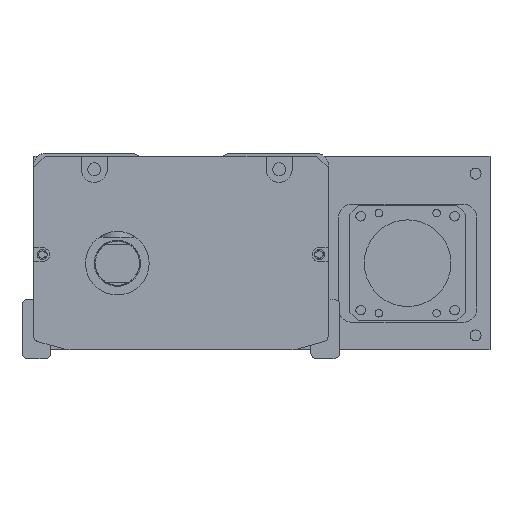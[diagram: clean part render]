
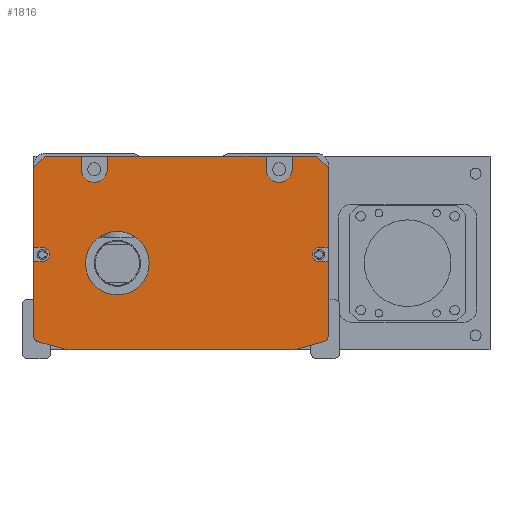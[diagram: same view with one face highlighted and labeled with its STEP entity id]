
A CAD part, front view. The second image highlights one B-rep face of the part: STEP entity #1816.
In plain terms, the highlighted planar face has unit normal (0, -1, 0).
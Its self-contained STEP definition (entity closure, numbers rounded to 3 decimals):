
#1816=ADVANCED_FACE('',(#4344,#4345),#2345,.F.);
#2345=PLANE('',#13677);
#2874=LINE('',#26432,#3667);
#2878=LINE('',#26441,#3671);
#2886=LINE('',#26468,#3679);
#2890=LINE('',#26477,#3683);
#2897=LINE('',#26493,#3690);
#2899=LINE('',#26498,#3692);
#2914=LINE('',#26541,#3707);
#2916=LINE('',#26549,#3709);
#2919=LINE('',#26553,#3712);
#2940=LINE('',#26621,#3733);
#2944=LINE('',#26630,#3737);
#2948=LINE('',#26639,#3741);
#2952=LINE('',#26648,#3745);
#2956=LINE('',#26664,#3749);
#2960=LINE('',#26670,#3753);
#2961=LINE('',#26671,#3754);
#2963=LINE('',#26687,#3756);
#2964=LINE('',#26688,#3757);
#2965=LINE('',#26689,#3758);
#2966=LINE('',#26690,#3759);
#3667=VECTOR('',#16139,1.);
#3671=VECTOR('',#16145,1.);
#3679=VECTOR('',#16167,1.);
#3683=VECTOR('',#16173,1.);
#3690=VECTOR('',#16182,1.);
#3692=VECTOR('',#16186,1.);
#3707=VECTOR('',#16225,1.);
#3709=VECTOR('',#16235,1.);
#3712=VECTOR('',#16240,1.);
#3733=VECTOR('',#16315,1.);
#3737=VECTOR('',#16321,1.);
#3741=VECTOR('',#16327,1.);
#3745=VECTOR('',#16333,1.);
#3749=VECTOR('',#16351,1.);
#3753=VECTOR('',#16355,1.);
#3754=VECTOR('',#16356,1.);
#3756=VECTOR('',#16380,1.);
#3757=VECTOR('',#16381,1.);
#3758=VECTOR('',#16382,1.);
#3759=VECTOR('',#16383,1.);
#4344=FACE_BOUND('',#5190,.T.);
#4345=FACE_BOUND('',#5191,.T.);
#5190=EDGE_LOOP('',(#7619,#7620,#7621,#7622,#7623,#7624,#7625,#7626,#7627,
#7628,#7629,#7630,#7631,#7632,#7633,#7634,#7635,#7636,#7637,#7638,#7639,
#7640,#7641,#7642,#7643,#7644,#7645,#7646));
#5191=EDGE_LOOP('',(#7647));
#7619=ORIENTED_EDGE('',*,*,#11532,.T.);
#7620=ORIENTED_EDGE('',*,*,#11409,.T.);
#7621=ORIENTED_EDGE('',*,*,#11519,.T.);
#7622=ORIENTED_EDGE('',*,*,#11436,.F.);
#7623=ORIENTED_EDGE('',*,*,#11473,.T.);
#7624=ORIENTED_EDGE('',*,*,#11438,.F.);
#7625=ORIENTED_EDGE('',*,*,#11524,.T.);
#7626=ORIENTED_EDGE('',*,*,#11425,.F.);
#7627=ORIENTED_EDGE('',*,*,#11470,.T.);
#7628=ORIENTED_EDGE('',*,*,#11429,.F.);
#7629=ORIENTED_EDGE('',*,*,#11523,.T.);
#7630=ORIENTED_EDGE('',*,*,#11413,.T.);
#7631=ORIENTED_EDGE('',*,*,#11533,.T.);
#7632=ORIENTED_EDGE('',*,*,#11503,.T.);
#7633=ORIENTED_EDGE('',*,*,#11531,.T.);
#7634=ORIENTED_EDGE('',*,*,#11499,.T.);
#7635=ORIENTED_EDGE('',*,*,#11534,.T.);
#7636=ORIENTED_EDGE('',*,*,#11456,.T.);
#7637=ORIENTED_EDGE('',*,*,#11459,.T.);
#7638=ORIENTED_EDGE('',*,*,#11462,.T.);
#7639=ORIENTED_EDGE('',*,*,#11463,.T.);
#7640=ORIENTED_EDGE('',*,*,#11419,.T.);
#7641=ORIENTED_EDGE('',*,*,#11466,.T.);
#7642=ORIENTED_EDGE('',*,*,#11421,.T.);
#7643=ORIENTED_EDGE('',*,*,#11535,.T.);
#7644=ORIENTED_EDGE('',*,*,#11511,.T.);
#7645=ORIENTED_EDGE('',*,*,#11530,.T.);
#7646=ORIENTED_EDGE('',*,*,#11507,.T.);
#7647=ORIENTED_EDGE('',*,*,#11475,.T.);
#9893=VERTEX_POINT('',#26433);
#9894=VERTEX_POINT('',#26434);
#9897=VERTEX_POINT('',#26442);
#9898=VERTEX_POINT('',#26443);
#9903=VERTEX_POINT('',#26454);
#9904=VERTEX_POINT('',#26456);
#9905=VERTEX_POINT('',#26460);
#9906=VERTEX_POINT('',#26461);
#9909=VERTEX_POINT('',#26469);
#9910=VERTEX_POINT('',#26470);
#9913=VERTEX_POINT('',#26478);
#9914=VERTEX_POINT('',#26479);
#9918=VERTEX_POINT('',#26488);
#9920=VERTEX_POINT('',#26492);
#9921=VERTEX_POINT('',#26496);
#9923=VERTEX_POINT('',#26499);
#9933=VERTEX_POINT('',#26529);
#9936=VERTEX_POINT('',#26534);
#9938=VERTEX_POINT('',#26540);
#9940=VERTEX_POINT('',#26546);
#9943=VERTEX_POINT('',#26572);
#9959=VERTEX_POINT('',#26619);
#9961=VERTEX_POINT('',#26622);
#9964=VERTEX_POINT('',#26629);
#9965=VERTEX_POINT('',#26631);
#9967=VERTEX_POINT('',#26637);
#9969=VERTEX_POINT('',#26640);
#9972=VERTEX_POINT('',#26647);
#9973=VERTEX_POINT('',#26649);
#11409=EDGE_CURVE('',#9893,#9894,#2874,.T.);
#11413=EDGE_CURVE('',#9897,#9898,#2878,.T.);
#11419=EDGE_CURVE('',#9904,#9903,#12564,.T.);
#11421=EDGE_CURVE('',#9905,#9906,#12565,.T.);
#11425=EDGE_CURVE('',#9909,#9910,#2886,.T.);
#11429=EDGE_CURVE('',#9913,#9914,#2890,.T.);
#11436=EDGE_CURVE('',#9920,#9918,#2897,.T.);
#11438=EDGE_CURVE('',#9921,#9923,#2899,.T.);
#11456=EDGE_CURVE('',#9933,#9936,#12572,.T.);
#11459=EDGE_CURVE('',#9936,#9938,#2914,.T.);
#11462=EDGE_CURVE('',#9938,#9940,#12574,.T.);
#11463=EDGE_CURVE('',#9940,#9904,#2916,.T.);
#11466=EDGE_CURVE('',#9903,#9905,#2919,.T.);
#11470=EDGE_CURVE('',#9909,#9914,#12577,.T.);
#11473=EDGE_CURVE('',#9920,#9923,#12580,.T.);
#11475=EDGE_CURVE('',#9943,#9943,#12581,.T.);
#11499=EDGE_CURVE('',#9961,#9959,#2940,.T.);
#11503=EDGE_CURVE('',#9965,#9964,#2944,.T.);
#11507=EDGE_CURVE('',#9969,#9967,#2948,.T.);
#11511=EDGE_CURVE('',#9973,#9972,#2952,.T.);
#11519=EDGE_CURVE('',#9894,#9918,#2956,.T.);
#11523=EDGE_CURVE('',#9913,#9897,#2960,.T.);
#11524=EDGE_CURVE('',#9921,#9910,#2961,.T.);
#11530=EDGE_CURVE('',#9972,#9969,#12595,.T.);
#11531=EDGE_CURVE('',#9964,#9961,#12596,.T.);
#11532=EDGE_CURVE('',#9967,#9893,#2963,.T.);
#11533=EDGE_CURVE('',#9898,#9965,#2964,.T.);
#11534=EDGE_CURVE('',#9959,#9933,#2965,.T.);
#11535=EDGE_CURVE('',#9906,#9973,#2966,.T.);
#12564=CIRCLE('',#13604,10.);
#12565=CIRCLE('',#13606,2.);
#12572=CIRCLE('',#13622,2.);
#12574=CIRCLE('',#13626,10.);
#12577=CIRCLE('',#13634,4.5);
#12580=CIRCLE('',#13639,4.5);
#12581=CIRCLE('',#13642,11.);
#12595=CIRCLE('',#13673,2.5);
#12596=CIRCLE('',#13675,2.5);
#13604=AXIS2_PLACEMENT_3D('',#26455,#16154,#16155);
#13606=AXIS2_PLACEMENT_3D('',#26459,#16159,#16160);
#13622=AXIS2_PLACEMENT_3D('',#26535,#16219,#16220);
#13626=AXIS2_PLACEMENT_3D('',#26547,#16231,#16232);
#13634=AXIS2_PLACEMENT_3D('',#26561,#16252,#16253);
#13639=AXIS2_PLACEMENT_3D('',#26567,#16262,#16263);
#13642=AXIS2_PLACEMENT_3D('',#26571,#16269,#16270);
#13673=AXIS2_PLACEMENT_3D('',#26683,#16372,#16373);
#13675=AXIS2_PLACEMENT_3D('',#26685,#16376,#16377);
#13677=AXIS2_PLACEMENT_3D('',#26691,#16384,#16385);
#16139=DIRECTION('',(-0.707,0.,0.707));
#16145=DIRECTION('',(-0.707,0.,-0.707));
#16154=DIRECTION('',(0.,-1.,0.));
#16155=DIRECTION('',(0.,0.,-1.));
#16159=DIRECTION('',(0.,-1.,0.));
#16160=DIRECTION('',(0.,0.,-1.));
#16167=DIRECTION('',(0.,0.,1.));
#16173=DIRECTION('',(0.,0.,-1.));
#16182=DIRECTION('',(0.,0.,1.));
#16186=DIRECTION('',(0.,0.,-1.));
#16219=DIRECTION('',(0.,-1.,0.));
#16220=DIRECTION('',(0.,0.,1.));
#16225=DIRECTION('',(0.963,0.,-0.269));
#16231=DIRECTION('',(0.,-1.,0.));
#16232=DIRECTION('',(0.,0.,1.));
#16235=DIRECTION('',(1.,0.,0.));
#16240=DIRECTION('',(0.963,0.,0.269));
#16252=DIRECTION('',(0.,1.,0.));
#16253=DIRECTION('',(0.,0.,1.));
#16262=DIRECTION('',(0.,1.,0.));
#16263=DIRECTION('',(0.,0.,1.));
#16269=DIRECTION('',(0.,1.,0.));
#16270=DIRECTION('',(0.,0.,1.));
#16315=DIRECTION('',(-1.,0.,0.));
#16321=DIRECTION('',(1.,0.,0.));
#16327=DIRECTION('',(1.,0.,0.));
#16333=DIRECTION('',(-1.,0.,0.));
#16351=DIRECTION('',(-1.,0.,0.));
#16355=DIRECTION('',(-1.,0.,0.));
#16356=DIRECTION('',(-1.,0.,0.));
#16372=DIRECTION('',(0.,1.,0.));
#16373=DIRECTION('',(0.,0.,1.));
#16376=DIRECTION('',(0.,1.,0.));
#16377=DIRECTION('',(0.,0.,1.));
#16380=DIRECTION('',(0.,0.,1.));
#16381=DIRECTION('',(0.,0.,-1.));
#16382=DIRECTION('',(0.,0.,-1.));
#16383=DIRECTION('',(0.,0.,1.));
#16384=DIRECTION('',(0.,1.,0.));
#16385=DIRECTION('',(-1.,0.,0.));
#26432=CARTESIAN_POINT('',(43.808,-67.5,-1.));
#26433=CARTESIAN_POINT('',(47.808,-67.5,-5.));
#26434=CARTESIAN_POINT('',(43.808,-67.5,-1.));
#26441=CARTESIAN_POINT('',(-54.192,-67.5,-5.));
#26442=CARTESIAN_POINT('',(-50.192,-67.5,-1.));
#26443=CARTESIAN_POINT('',(-54.192,-67.5,-5.));
#26454=CARTESIAN_POINT('',(37.424,-67.5,-67.631));
#26455=CARTESIAN_POINT('',(34.733,-67.5,-58.));
#26456=CARTESIAN_POINT('',(34.733,-67.5,-68.));
#26459=CARTESIAN_POINT('',(45.808,-67.5,-63.212));
#26460=CARTESIAN_POINT('',(46.346,-67.5,-65.138));
#26461=CARTESIAN_POINT('',(47.808,-67.5,-63.212));
#26468=CARTESIAN_POINT('',(-28.692,-67.5,-3.5));
#26469=CARTESIAN_POINT('',(-28.692,-67.5,-5.5));
#26470=CARTESIAN_POINT('',(-28.692,-67.5,-1.));
#26477=CARTESIAN_POINT('',(-37.692,-67.5,-1.));
#26478=CARTESIAN_POINT('',(-37.692,-67.5,-1.));
#26479=CARTESIAN_POINT('',(-37.692,-67.5,-5.5));
#26488=CARTESIAN_POINT('',(35.308,-67.5,-1.));
#26492=CARTESIAN_POINT('',(35.308,-67.5,-5.5));
#26493=CARTESIAN_POINT('',(35.308,-67.5,-1.));
#26496=CARTESIAN_POINT('',(26.308,-67.5,-1.));
#26498=CARTESIAN_POINT('',(26.308,-67.5,-1.));
#26499=CARTESIAN_POINT('',(26.308,-67.5,-5.5));
#26529=CARTESIAN_POINT('',(-54.192,-67.5,-63.212));
#26534=CARTESIAN_POINT('',(-52.731,-67.5,-65.138));
#26535=CARTESIAN_POINT('',(-52.192,-67.5,-63.212));
#26540=CARTESIAN_POINT('',(-43.809,-67.5,-67.631));
#26541=CARTESIAN_POINT('',(-55.807,-67.5,-64.279));
#26546=CARTESIAN_POINT('',(-41.118,-67.5,-68.));
#26547=CARTESIAN_POINT('',(-41.118,-67.5,-58.));
#26549=CARTESIAN_POINT('',(-54.692,-67.5,-68.));
#26553=CARTESIAN_POINT('',(49.422,-67.5,-64.279));
#26561=CARTESIAN_POINT('',(-33.192,-67.5,-5.5));
#26567=CARTESIAN_POINT('',(30.808,-67.5,-5.5));
#26571=CARTESIAN_POINT('',(-25.192,-67.5,-38.));
#26572=CARTESIAN_POINT('',(-25.192,-67.5,-27.));
#26619=CARTESIAN_POINT('',(-54.192,-67.5,-37.5));
#26621=CARTESIAN_POINT('',(-3.192,-67.5,-37.5));
#26622=CARTESIAN_POINT('',(-51.192,-67.5,-37.5));
#26629=CARTESIAN_POINT('',(-51.192,-67.5,-32.5));
#26630=CARTESIAN_POINT('',(-3.192,-67.5,-32.5));
#26631=CARTESIAN_POINT('',(-54.192,-67.5,-32.5));
#26637=CARTESIAN_POINT('',(47.808,-67.5,-32.5));
#26639=CARTESIAN_POINT('',(-3.192,-67.5,-32.5));
#26640=CARTESIAN_POINT('',(44.808,-67.5,-32.5));
#26647=CARTESIAN_POINT('',(44.808,-67.5,-37.5));
#26648=CARTESIAN_POINT('',(-3.192,-67.5,-37.5));
#26649=CARTESIAN_POINT('',(47.808,-67.5,-37.5));
#26664=CARTESIAN_POINT('',(-3.192,-67.5,-1.));
#26670=CARTESIAN_POINT('',(-54.192,-67.5,-1.));
#26671=CARTESIAN_POINT('',(-54.192,-67.5,-1.));
#26683=CARTESIAN_POINT('',(44.808,-67.5,-35.));
#26685=CARTESIAN_POINT('',(-51.192,-67.5,-35.));
#26687=CARTESIAN_POINT('',(47.808,-67.5,-1.));
#26688=CARTESIAN_POINT('',(-54.192,-67.5,-62.));
#26689=CARTESIAN_POINT('',(-54.192,-67.5,-62.));
#26690=CARTESIAN_POINT('',(47.808,-67.5,-1.));
#26691=CARTESIAN_POINT('',(-3.192,-67.5,-1.));
